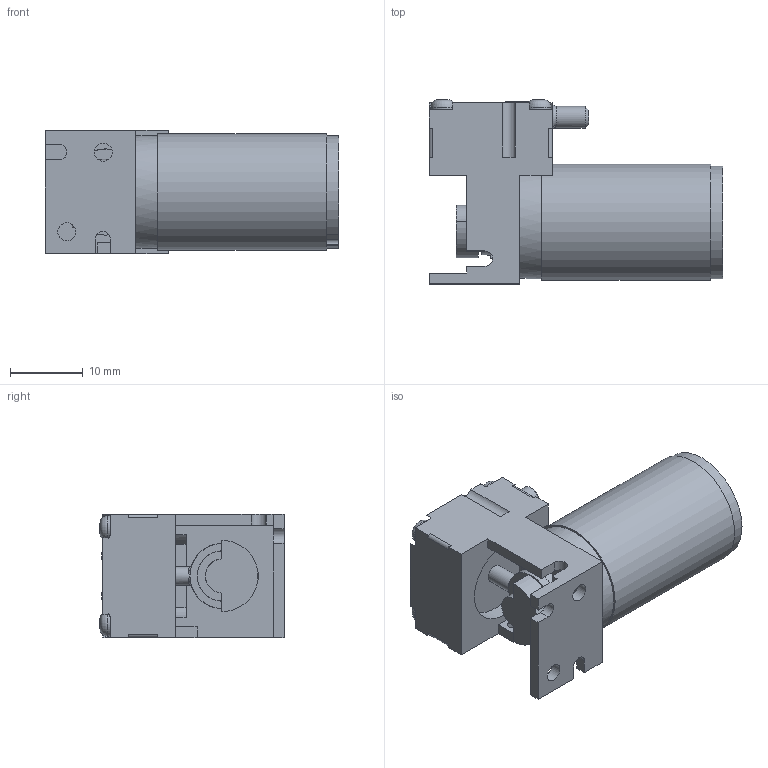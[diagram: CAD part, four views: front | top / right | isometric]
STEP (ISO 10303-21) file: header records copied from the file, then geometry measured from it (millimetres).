
FILE_DESCRIPTION (( 'STEP AP203' ), '1' );
FILE_NAME ('20020304-18.STEP', '2019-07-09T11:57:29', ( 'admin' ), ( 'Gardner Denver' ), 'SwSTEP 2.0', 'SolidWorks 2018', '' );
FILE_SCHEMA (( 'CONFIG_CONTROL_DESIGN' ));
Length unit declared in the file: inch
Products named in the file (1): 20020304-18
Bounding box: 40.5 x 25.4 x 17 mm (x, y, z)
Volume: 9454.3 mm3; surface area: 4401.3 mm2
Topology: 1 solids, 2 shells, 152 faces, 408 edges, 260 vertices
Faces by surface type: plane 88, cylinder 34, torus 12, bspline 12, cone 6
Full cylindrical faces by diameter (mm): 1.6 x1, 2.5 x3, 3 x2, 3.4 x4, 4.7 x1, 6.96 x2, 11.9 x1, 15.5 x1, 16 x1
Entity records: 4864 total; most frequent: CARTESIAN_POINT 1214, ORIENTED_EDGE 722, DIRECTION 720, EDGE_CURVE 361, AXIS2_PLACEMENT_3D 247, VERTEX_POINT 246, VECTOR 226, LINE 226
